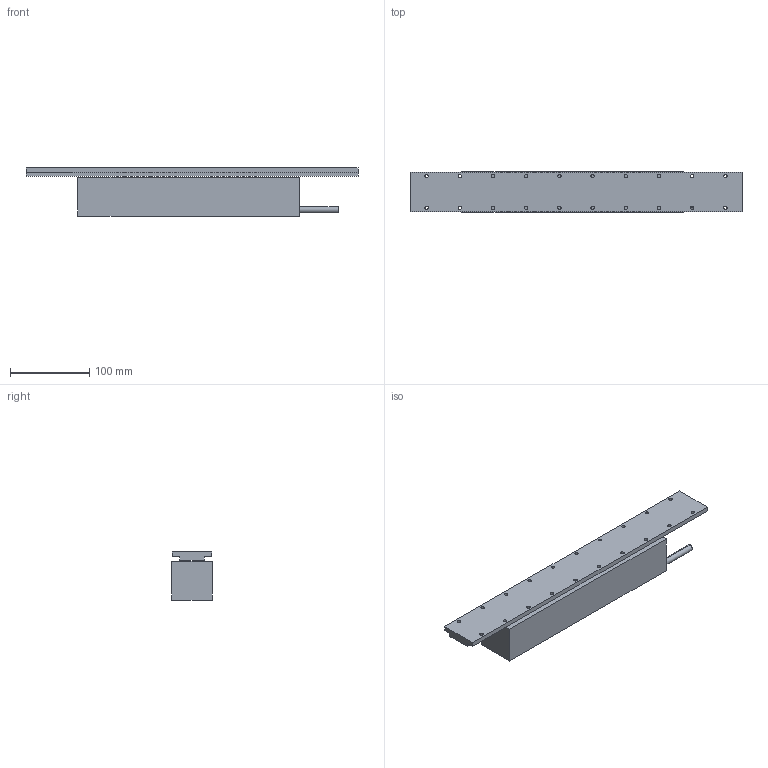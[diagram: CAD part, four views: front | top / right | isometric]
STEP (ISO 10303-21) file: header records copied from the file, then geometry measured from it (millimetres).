
FILE_DESCRIPTION (( 'STEP AP214' ), '1' );
FILE_NAME ('FLM-51-280蚾饜极.STEP', '2022-05-12T08:00:29', ( 'Microsoft' ), ( 'Microsoft' ), 'SwSTEP 2.0', 'SolidWorks 2016', '' );
FILE_SCHEMA (( 'AUTOMOTIVE_DESIGN' ));
Length unit declared in the file: millimetre
Products named in the file (3): FLM-51-280蚾饜极; TLM-50-L420; FLM-51-280
Assembly tree (2 placements, depth 2):
  FLM-51-280蚾饜极
    FLM-51-280
    TLM-50-L420
Bounding box: 420 x 51 x 61.1 mm (x, y, z)
Volume: 890572.7 mm3; surface area: 117195.4 mm2
Topology: 2 solids, 2 shells, 191 faces, 462 edges, 278 vertices
Faces by surface type: cylinder 118, plane 37, cone 36
Entity records: 6330 total; most frequent: DIRECTION 1054, CARTESIAN_POINT 900, ORIENTED_EDGE 852, AXIS2_PLACEMENT_3D 432, EDGE_CURVE 426, VERTEX_POINT 278, EDGE_LOOP 270, CIRCLE 236
